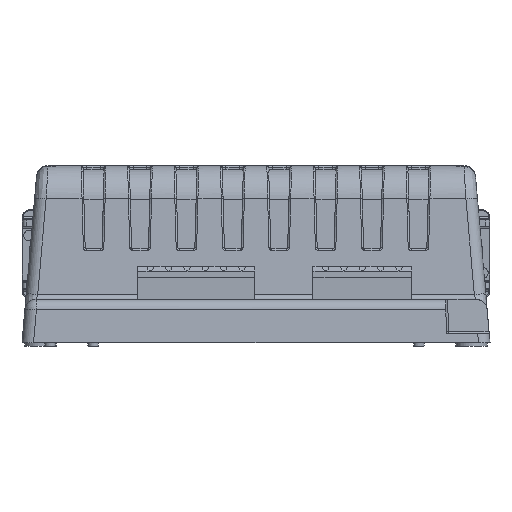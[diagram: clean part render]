
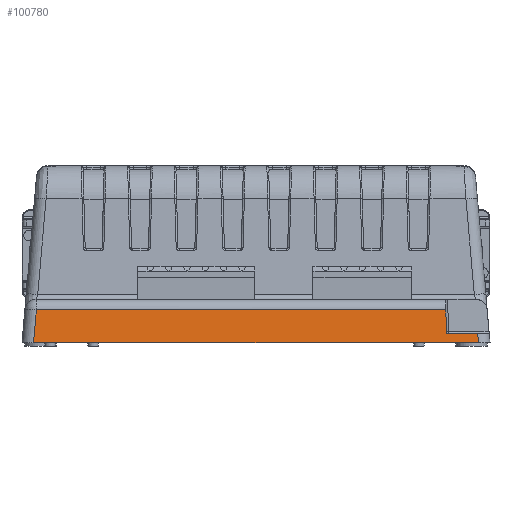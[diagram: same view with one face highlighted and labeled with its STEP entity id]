
A CAD part, front view. The second image highlights one B-rep face of the part: STEP entity #100780.
In plain terms, the highlighted planar face has unit normal (0, -0.996, 0.087).
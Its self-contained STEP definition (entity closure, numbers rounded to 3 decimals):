
#194 = CARTESIAN_POINT ( 'NONE',  ( 52.722, -69.069, -21.513 ) ) ;
#3875 = DIRECTION ( 'NONE',  ( 0., -0.996, 0.087 ) ) ;
#4962 = LINE ( 'NONE', #71785, #7107 ) ;
#5759 = VERTEX_POINT ( 'NONE', #8358 ) ;
#6213 = VECTOR ( 'NONE', #31528, 1000. ) ;
#7107 = VECTOR ( 'NONE', #102569, 1000. ) ;
#8358 = CARTESIAN_POINT ( 'NONE',  ( -60.818, -68.536, -15.421 ) ) ;
#10592 = DIRECTION ( 'NONE',  ( -1., 0., 0. ) ) ;
#11190 = EDGE_CURVE ( 'NONE', #56818, #64155, #83214, .T. ) ;
#13173 = FACE_OUTER_BOUND ( 'NONE', #35122, .T. ) ;
#16593 = CARTESIAN_POINT ( 'NONE',  ( 0., -69.33, -24.5 ) ) ;
#16656 = EDGE_CURVE ( 'NONE', #84955, #38231, #62294, .T. ) ;
#19773 = DIRECTION ( 'NONE',  ( -1., 0., 0. ) ) ;
#25727 = ORIENTED_EDGE ( 'NONE', *, *, #16656, .T. ) ;
#26243 = DIRECTION ( 'NONE',  ( 1., 0., 0. ) ) ;
#31528 = DIRECTION ( 'NONE',  ( -0.087, 0.087, 0.992 ) ) ;
#31653 = CARTESIAN_POINT ( 'NONE',  ( 52.722, -69.069, -21.513 ) ) ;
#33075 = CARTESIAN_POINT ( 'NONE',  ( 52.935, -69.112, -22. ) ) ;
#33523 =( BOUNDED_CURVE ( )  B_SPLINE_CURVE ( 3, ( #90564, #33075, #74181, #194 ),
 .UNSPECIFIED., .F., .T. ) 
 B_SPLINE_CURVE_WITH_KNOTS ( ( 4, 4 ),
 ( 0., 1.545 ),
 .UNSPECIFIED. ) 
 CURVE ( )  GEOMETRIC_REPRESENTATION_ITEM ( )  RATIONAL_B_SPLINE_CURVE ( ( 1., 0.811, 0.811, 1. ) ) 
 REPRESENTATION_ITEM ( '' )  );
#33546 = ORIENTED_EDGE ( 'NONE', *, *, #41539, .T. ) ;
#35122 = EDGE_LOOP ( 'NONE', ( #38905, #33546, #66267, #63660, #25727, #43226, #70707 ) ) ;
#38231 = VERTEX_POINT ( 'NONE', #68665 ) ;
#38666 = CARTESIAN_POINT ( 'NONE',  ( 61.394, -69.112, -22. ) ) ;
#38905 = ORIENTED_EDGE ( 'NONE', *, *, #79634, .T. ) ;
#41539 = EDGE_CURVE ( 'NONE', #61087, #64155, #47970, .T. ) ;
#43226 = ORIENTED_EDGE ( 'NONE', *, *, #104871, .T. ) ;
#45501 = PLANE ( 'NONE',  #80302 ) ;
#47970 = LINE ( 'NONE', #89555, #6213 ) ;
#51292 = VERTEX_POINT ( 'NONE', #82808 ) ;
#52757 = CARTESIAN_POINT ( 'NONE',  ( 0., -68.536, -15.421 ) ) ;
#56818 = VERTEX_POINT ( 'NONE', #73129 ) ;
#59910 = LINE ( 'NONE', #52757, #76129 ) ;
#61087 = VERTEX_POINT ( 'NONE', #76003 ) ;
#62294 = LINE ( 'NONE', #87442, #103013 ) ;
#63660 = ORIENTED_EDGE ( 'NONE', *, *, #73797, .T. ) ;
#64155 = VERTEX_POINT ( 'NONE', #38666 ) ;
#66267 = ORIENTED_EDGE ( 'NONE', *, *, #11190, .F. ) ;
#66419 = LINE ( 'NONE', #16593, #84620 ) ;
#68665 = CARTESIAN_POINT ( 'NONE',  ( 52.563, -68.536, -15.421 ) ) ;
#70707 = ORIENTED_EDGE ( 'NONE', *, *, #101647, .T. ) ;
#71585 = DIRECTION ( 'NONE',  ( -0.026, 0.087, 0.996 ) ) ;
#71785 = CARTESIAN_POINT ( 'NONE',  ( -61.148, -68.866, -19.191 ) ) ;
#73129 = CARTESIAN_POINT ( 'NONE',  ( 53.222, -69.112, -22. ) ) ;
#73656 = VECTOR ( 'NONE', #26243, 1000. ) ;
#73797 = EDGE_CURVE ( 'NONE', #56818, #84955, #33523, .T. ) ;
#74181 = CARTESIAN_POINT ( 'NONE',  ( 52.73, -69.094, -21.8 ) ) ;
#76003 = CARTESIAN_POINT ( 'NONE',  ( 61.613, -69.33, -24.5 ) ) ;
#76129 = VECTOR ( 'NONE', #10592, 1000. ) ;
#79634 = EDGE_CURVE ( 'NONE', #51292, #61087, #66419, .T. ) ;
#80302 = AXIS2_PLACEMENT_3D ( 'NONE', #96921, #3875, #19773 ) ;
#82808 = CARTESIAN_POINT ( 'NONE',  ( -61.613, -69.33, -24.5 ) ) ;
#83214 = LINE ( 'NONE', #101220, #73656 ) ;
#84620 = VECTOR ( 'NONE', #90494, 1000. ) ;
#84955 = VERTEX_POINT ( 'NONE', #31653 ) ;
#87442 = CARTESIAN_POINT ( 'NONE',  ( 52.765, -69.211, -23.129 ) ) ;
#89555 = CARTESIAN_POINT ( 'NONE',  ( 61.148, -68.866, -19.191 ) ) ;
#90494 = DIRECTION ( 'NONE',  ( 1., 0., 0. ) ) ;
#90564 = CARTESIAN_POINT ( 'NONE',  ( 53.222, -69.112, -22. ) ) ;
#96921 = CARTESIAN_POINT ( 'NONE',  ( 0., -69.33, -24.5 ) ) ;
#100780 = ADVANCED_FACE ( 'NONE', ( #13173 ), #45501, .T. ) ;
#101220 = CARTESIAN_POINT ( 'NONE',  ( 0., -69.112, -22. ) ) ;
#101647 = EDGE_CURVE ( 'NONE', #5759, #51292, #4962, .T. ) ;
#102569 = DIRECTION ( 'NONE',  ( -0.087, -0.087, -0.992 ) ) ;
#103013 = VECTOR ( 'NONE', #71585, 1000. ) ;
#104871 = EDGE_CURVE ( 'NONE', #38231, #5759, #59910, .T. ) ;
